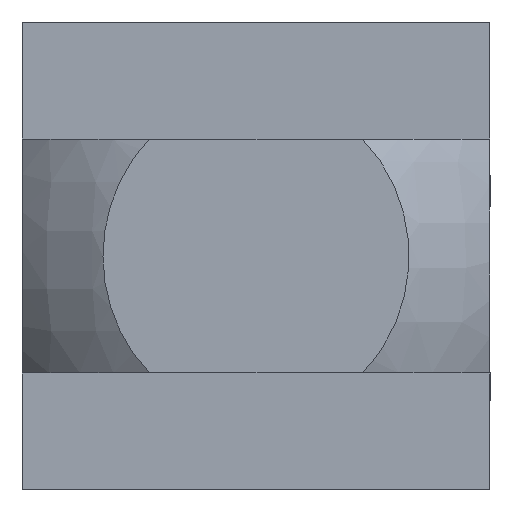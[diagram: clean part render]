
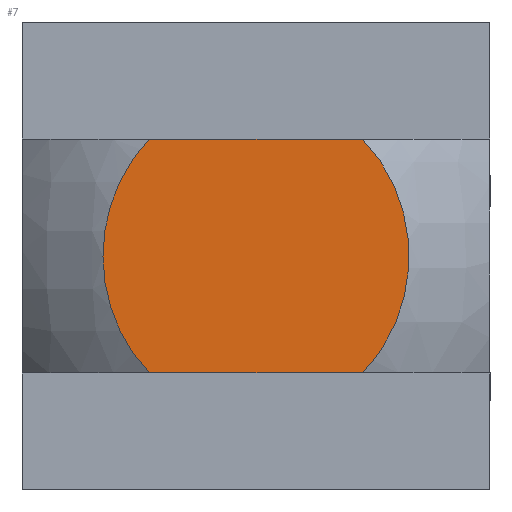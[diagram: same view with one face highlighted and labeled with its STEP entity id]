
A CAD part, left-side view. The second image highlights one B-rep face of the part: STEP entity #7.
In plain terms, the highlighted planar face has unit normal (-1, 0, 0).
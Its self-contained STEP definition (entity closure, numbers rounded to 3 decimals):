
#7 = ADVANCED_FACE ( 'NONE', ( #69 ), #68, .T. ) ;
#48 = DIRECTION ( 'NONE',  ( 0., 0., 1. ) ) ;
#64 = CARTESIAN_POINT ( 'NONE',  ( -26., 10., -10. ) ) ;
#65 = AXIS2_PLACEMENT_3D ( 'NONE', #64, #66, #48 ) ;
#66 = DIRECTION ( 'NONE',  ( -1., 0., 0. ) ) ;
#68 = PLANE ( 'NONE',  #65 ) ;
#69 = FACE_OUTER_BOUND ( 'NONE', #878, .T. ) ;
#252 = CARTESIAN_POINT ( 'NONE',  ( -26., 4.549, -5. ) ) ;
#274 = DIRECTION ( 'NONE',  ( 0., 1., 0. ) ) ;
#287 = VECTOR ( 'NONE', #274, 1000. ) ;
#288 = CARTESIAN_POINT ( 'NONE',  ( -26., -10., -5. ) ) ;
#289 = LINE ( 'NONE', #288, #287 ) ;
#574 = CARTESIAN_POINT ( 'NONE',  ( -26., 4.867, 4.672 ) ) ;
#575 = CARTESIAN_POINT ( 'NONE',  ( -26., 5.156, 4.305 ) ) ;
#576 = CARTESIAN_POINT ( 'NONE',  ( -26., 5.65, 3.532 ) ) ;
#577 = CARTESIAN_POINT ( 'NONE',  ( -26., 5.858, 3.125 ) ) ;
#578 = CARTESIAN_POINT ( 'NONE',  ( -26., 6.112, 2.484 ) ) ;
#579 = CARTESIAN_POINT ( 'NONE',  ( -26., 6.187, 2.264 ) ) ;
#580 = CARTESIAN_POINT ( 'NONE',  ( -26., 6.315, 1.822 ) ) ;
#581 = CARTESIAN_POINT ( 'NONE',  ( -26., 6.369, 1.599 ) ) ;
#582 = CARTESIAN_POINT ( 'NONE',  ( -26., 6.497, 0.925 ) ) ;
#583 = CARTESIAN_POINT ( 'NONE',  ( -26., 6.54, 0.468 ) ) ;
#584 = CARTESIAN_POINT ( 'NONE',  ( -26., 6.541, -0.458 ) ) ;
#585 = CARTESIAN_POINT ( 'NONE',  ( -26., 6.498, -0.917 ) ) ;
#586 = CARTESIAN_POINT ( 'NONE',  ( -26., 6.369, -1.597 ) ) ;
#587 = CARTESIAN_POINT ( 'NONE',  ( -26., 6.315, -1.823 ) ) ;
#588 = CARTESIAN_POINT ( 'NONE',  ( -26., 6.187, -2.265 ) ) ;
#589 = CARTESIAN_POINT ( 'NONE',  ( -26., 6.113, -2.482 ) ) ;
#590 = CARTESIAN_POINT ( 'NONE',  ( -26., 5.86, -3.121 ) ) ;
#591 = CARTESIAN_POINT ( 'NONE',  ( -26., 5.651, -3.532 ) ) ;
#592 = B_SPLINE_CURVE_WITH_KNOTS ( 'NONE', 3,
 ( #636, #635, #634, #633, #632, #631, #630, #629, #628, #627, #626, #625, #624, #623, #622, #621, #620, #619, #618, #617, #616, #615 ),
 .UNSPECIFIED., .F., .F.,
 ( 4, 2, 2, 2, 2, 2, 2, 2, 2, 2, 4 ),
 ( 0.016, 0.017, 0.018, 0.02, 0.02, 0.021, 0.023, 0.024, 0.025, 0.025, 0.027 ),
 .UNSPECIFIED. ) ;
#593 = CARTESIAN_POINT ( 'NONE',  ( -26., -4.549, 5. ) ) ;
#594 = CARTESIAN_POINT ( 'NONE',  ( -26., -4.549, -5. ) ) ;
#595 = CARTESIAN_POINT ( 'NONE',  ( -26., 5.152, -4.31 ) ) ;
#596 = CARTESIAN_POINT ( 'NONE',  ( -26., 4.868, -4.67 ) ) ;
#597 = CARTESIAN_POINT ( 'NONE',  ( -26., 4.549, -5. ) ) ;
#598 = B_SPLINE_CURVE_WITH_KNOTS ( 'NONE', 3,
 ( #597, #596, #595, #591, #590, #589, #588, #587, #586, #585, #584, #583, #582, #581, #580, #579, #578, #577, #576, #575, #574, #642 ),
 .UNSPECIFIED., .F., .F.,
 ( 4, 2, 2, 2, 2, 2, 2, 2, 2, 2, 4 ),
 ( 0.037, 0.038, 0.04, 0.04, 0.041, 0.042, 0.044, 0.044, 0.045, 0.046, 0.048 ),
 .UNSPECIFIED. ) ;
#615 = CARTESIAN_POINT ( 'NONE',  ( -26., -4.549, -5. ) ) ;
#616 = CARTESIAN_POINT ( 'NONE',  ( -26., -4.867, -4.671 ) ) ;
#617 = CARTESIAN_POINT ( 'NONE',  ( -26., -5.151, -4.312 ) ) ;
#618 = CARTESIAN_POINT ( 'NONE',  ( -26., -5.525, -3.728 ) ) ;
#619 = CARTESIAN_POINT ( 'NONE',  ( -26., -5.641, -3.527 ) ) ;
#620 = CARTESIAN_POINT ( 'NONE',  ( -26., -5.85, -3.118 ) ) ;
#621 = CARTESIAN_POINT ( 'NONE',  ( -26., -5.944, -2.909 ) ) ;
#622 = CARTESIAN_POINT ( 'NONE',  ( -26., -6.196, -2.271 ) ) ;
#623 = CARTESIAN_POINT ( 'NONE',  ( -26., -6.325, -1.829 ) ) ;
#624 = CARTESIAN_POINT ( 'NONE',  ( -26., -6.498, -0.919 ) ) ;
#625 = CARTESIAN_POINT ( 'NONE',  ( -26., -6.54, -0.463 ) ) ;
#626 = CARTESIAN_POINT ( 'NONE',  ( -26., -6.541, 0.224 ) ) ;
#627 = CARTESIAN_POINT ( 'NONE',  ( -26., -6.53, 0.453 ) ) ;
#628 = CARTESIAN_POINT ( 'NONE',  ( -26., -6.487, 0.912 ) ) ;
#629 = CARTESIAN_POINT ( 'NONE',  ( -26., -6.455, 1.143 ) ) ;
#630 = CARTESIAN_POINT ( 'NONE',  ( -26., -6.327, 1.822 ) ) ;
#631 = CARTESIAN_POINT ( 'NONE',  ( -26., -6.2, 2.262 ) ) ;
#632 = CARTESIAN_POINT ( 'NONE',  ( -26., -5.862, 3.117 ) ) ;
#633 = CARTESIAN_POINT ( 'NONE',  ( -26., -5.65, 3.533 ) ) ;
#634 = CARTESIAN_POINT ( 'NONE',  ( -26., -5.155, 4.306 ) ) ;
#635 = CARTESIAN_POINT ( 'NONE',  ( -26., -4.872, 4.667 ) ) ;
#636 = CARTESIAN_POINT ( 'NONE',  ( -26., -4.549, 5. ) ) ;
#637 = CARTESIAN_POINT ( 'NONE',  ( -26., 4.549, 5. ) ) ;
#638 = DIRECTION ( 'NONE',  ( 0., 1., 0. ) ) ;
#639 = VECTOR ( 'NONE', #638, 1000. ) ;
#640 = CARTESIAN_POINT ( 'NONE',  ( -26., -10., 5. ) ) ;
#641 = LINE ( 'NONE', #640, #639 ) ;
#642 = CARTESIAN_POINT ( 'NONE',  ( -26., 4.549, 5. ) ) ;
#878 = EDGE_LOOP ( 'NONE', ( #1034, #1038, #1032, #892 ) ) ;
#879 = VERTEX_POINT ( 'NONE', #252 ) ;
#892 = ORIENTED_EDGE ( 'NONE', *, *, #893, .F. ) ;
#893 = EDGE_CURVE ( 'NONE', #1037, #879, #289, .T. ) ;
#1032 = ORIENTED_EDGE ( 'NONE', *, *, #1033, .F. ) ;
#1033 = EDGE_CURVE ( 'NONE', #879, #1040, #598, .T. ) ;
#1034 = ORIENTED_EDGE ( 'NONE', *, *, #1035, .F. ) ;
#1035 = EDGE_CURVE ( 'NONE', #1036, #1037, #592, .T. ) ;
#1036 = VERTEX_POINT ( 'NONE', #593 ) ;
#1037 = VERTEX_POINT ( 'NONE', #594 ) ;
#1038 = ORIENTED_EDGE ( 'NONE', *, *, #1039, .T. ) ;
#1039 = EDGE_CURVE ( 'NONE', #1036, #1040, #641, .T. ) ;
#1040 = VERTEX_POINT ( 'NONE', #637 ) ;
